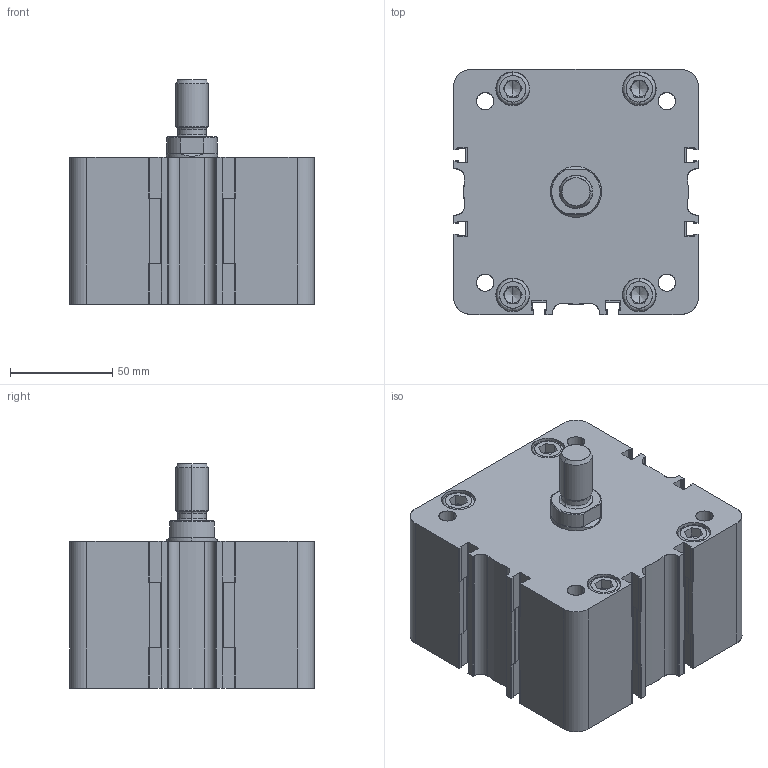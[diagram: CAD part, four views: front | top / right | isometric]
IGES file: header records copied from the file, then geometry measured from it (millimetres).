
Start section: SolidWorks IGES file using analytic representation for surfaces
Global section: file name: K:\Disegni Esecutivi\Cilindri\2_DISEGNI_cilindri_in_produzione\CILINDRO_ISO_21287\seconda versione cilindro 21287\2_CIL100\complessivi W100\W100_PIENI\WBM100\WBM1000005A.igs; native system: SolidWorks 2011; preprocessor: SolidWorks 2011; author: Cad01; date: 120803.172540; units: millimetre
Bounding box: 120 x 120 x 110 mm (x, y, z)
Surface area: 88713.3 mm2 (no closed solid volume)
Topology: 0 solids, 0 shells, 559 faces, 5845 edges, 5829 vertices
Faces by surface type: bspline 302, revolution 257
